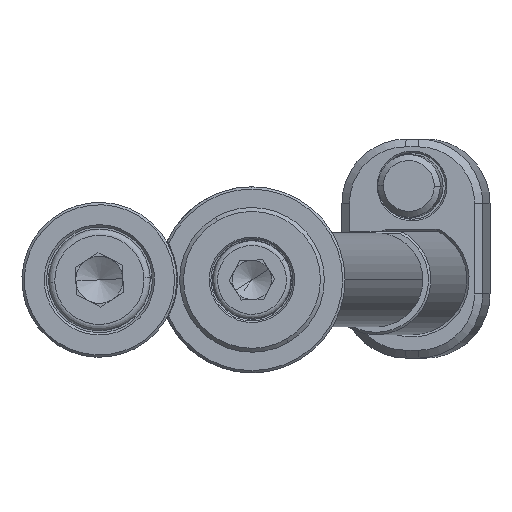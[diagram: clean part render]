
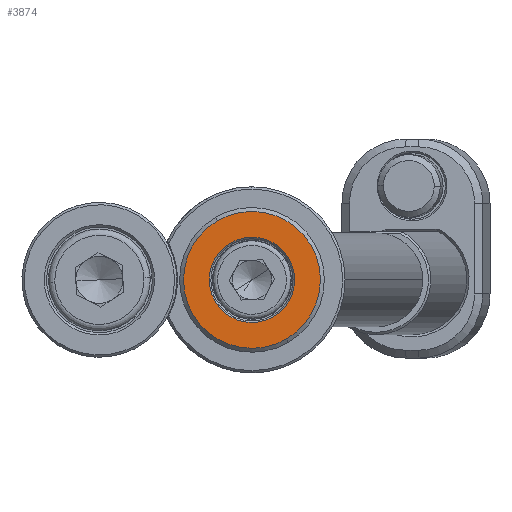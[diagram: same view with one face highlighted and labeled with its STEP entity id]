
A CAD part, front view. The second image highlights one B-rep face of the part: STEP entity #3874.
In plain terms, the highlighted planar face has unit normal (0, -1, 0).
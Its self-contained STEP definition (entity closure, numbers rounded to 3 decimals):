
#65 = ORIENTED_EDGE ( 'NONE', *, *, #10771, .T. ) ;
#400 = EDGE_LOOP ( 'NONE', ( #5627, #873 ) ) ;
#672 = FACE_OUTER_BOUND ( 'NONE', #400, .T. ) ;
#873 = ORIENTED_EDGE ( 'NONE', *, *, #2148, .T. ) ;
#909 = EDGE_LOOP ( 'NONE', ( #10812, #65 ) ) ;
#1015 = DIRECTION ( 'NONE',  ( -0.505, 0., 0.863 ) ) ;
#1346 = DIRECTION ( 'NONE',  ( 0., 1., 0. ) ) ;
#1606 = DIRECTION ( 'NONE',  ( 0., -1., 0. ) ) ;
#1632 = CARTESIAN_POINT ( 'NONE',  ( 0., -4., 0. ) ) ;
#2050 = CIRCLE ( 'NONE', #5783, 5.45 ) ;
#2148 = EDGE_CURVE ( 'NONE', #11610, #9919, #3190, .T. ) ;
#2378 = CARTESIAN_POINT ( 'NONE',  ( 0., -4., 0. ) ) ;
#2469 = DIRECTION ( 'NONE',  ( -0.505, 0., 0.863 ) ) ;
#2948 = PLANE ( 'NONE',  #6478 ) ;
#3190 = CIRCLE ( 'NONE', #6902, 8.75 ) ;
#3410 = AXIS2_PLACEMENT_3D ( 'NONE', #1632, #1346, #5798 ) ;
#3635 = CARTESIAN_POINT ( 'NONE',  ( 4.42, -4., -7.552 ) ) ;
#3709 = VERTEX_POINT ( 'NONE', #6029 ) ;
#3874 = ADVANCED_FACE ( 'NONE', ( #10591, #672 ), #2948, .F. ) ;
#5475 = EDGE_CURVE ( 'NONE', #3709, #6400, #2050, .T. ) ;
#5627 = ORIENTED_EDGE ( 'NONE', *, *, #14118, .T. ) ;
#5783 = AXIS2_PLACEMENT_3D ( 'NONE', #12006, #12157, #8700 ) ;
#5798 = DIRECTION ( 'NONE',  ( -0.505, 0., 0.863 ) ) ;
#6029 = CARTESIAN_POINT ( 'NONE',  ( 2.753, -4., -4.704 ) ) ;
#6400 = VERTEX_POINT ( 'NONE', #12270 ) ;
#6478 = AXIS2_PLACEMENT_3D ( 'NONE', #13901, #14038, #7428 ) ;
#6902 = AXIS2_PLACEMENT_3D ( 'NONE', #2378, #11276, #1015 ) ;
#7428 = DIRECTION ( 'NONE',  ( -0.505, 0., 0.863 ) ) ;
#8700 = DIRECTION ( 'NONE',  ( -0.505, 0., 0.863 ) ) ;
#9156 = CARTESIAN_POINT ( 'NONE',  ( 0., -4., 0. ) ) ;
#9919 = VERTEX_POINT ( 'NONE', #13446 ) ;
#10014 = CIRCLE ( 'NONE', #13283, 8.75 ) ;
#10591 = FACE_BOUND ( 'NONE', #909, .T. ) ;
#10771 = EDGE_CURVE ( 'NONE', #6400, #3709, #13593, .T. ) ;
#10812 = ORIENTED_EDGE ( 'NONE', *, *, #5475, .T. ) ;
#11276 = DIRECTION ( 'NONE',  ( 0., -1., 0. ) ) ;
#11610 = VERTEX_POINT ( 'NONE', #3635 ) ;
#12006 = CARTESIAN_POINT ( 'NONE',  ( 0., -4., 0. ) ) ;
#12157 = DIRECTION ( 'NONE',  ( 0., 1., 0. ) ) ;
#12270 = CARTESIAN_POINT ( 'NONE',  ( -2.753, -4., 4.704 ) ) ;
#13283 = AXIS2_PLACEMENT_3D ( 'NONE', #9156, #1606, #2469 ) ;
#13446 = CARTESIAN_POINT ( 'NONE',  ( -4.42, -4., 7.552 ) ) ;
#13593 = CIRCLE ( 'NONE', #3410, 5.45 ) ;
#13901 = CARTESIAN_POINT ( 'NONE',  ( -4.531, -4., -2.652 ) ) ;
#14038 = DIRECTION ( 'NONE',  ( 0., 1., 0. ) ) ;
#14118 = EDGE_CURVE ( 'NONE', #9919, #11610, #10014, .T. ) ;
